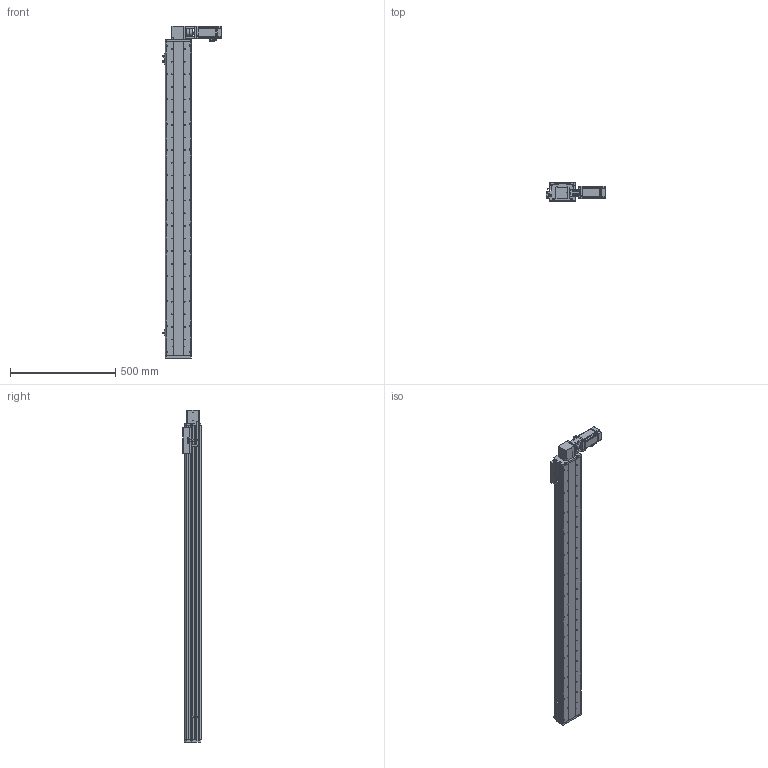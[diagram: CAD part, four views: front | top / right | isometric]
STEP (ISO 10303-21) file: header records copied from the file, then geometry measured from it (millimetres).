
FILE_DESCRIPTION (( 'STEP AP214' ), '1' );
FILE_NAME ('KSD125B-S1300-MRT-CM.STEP', '2017-10-21T07:09:45', ( '微软用户' ), ( '微软中国' ), 'SwSTEP 2.0', 'SolidWorks 2014', '' );
FILE_SCHEMA (( 'AUTOMOTIVE_DESIGN' ));
Length unit declared in the file: millimetre
Products named in the file (16): KSD125模组同步带-防撞垫2; CS-34X32-10X14; 100遵鎮湛假蚾啣1 ; 覜茼え68遵圉猾敕; U倰嫖萇假蚾璃; U倰嫖萇EEㄜSX672; KSD125模组同步带-防撞垫1; 100宽安装板同步带带电机座400W,86; 前端板-125宽模组同步带; 125模组同步带-尾端板1; KSD125模组同步带-滑动座1; KSD125B-S1300-MRT-CM; 100宽马达安装板同步带左; KSD125模组1300行程同步带-防尘盖; 125模组1300行程同步带-底板; MHMD042G1CA_2_03
Assembly tree (19 placements, depth 2):
  KSD125B-S1300-MRT-CM
    KSD125模组同步带-滑动座1
    125模组同步带-尾端板1
    前端板-125宽模组同步带
    100宽安装板同步带带电机座400W,86
    KSD125模组同步带-防撞垫1
    U倰嫖萇EEㄜSX672  x3
    U倰嫖萇假蚾璃  x3
    覜茼え68遵圉猾敕
    100遵鎮湛假蚾啣1 
    CS-34X32-10X14
    KSD125模组同步带-防撞垫2
    MHMD042G1CA_2_03
    125模组1300行程同步带-底板
    KSD125模组1300行程同步带-防尘盖
    100宽马达安装板同步带左
Bounding box: 282.7 x 86 x 1577 mm (x, y, z)
Volume: 4709428.3 mm3; surface area: 1540583.2 mm2
Topology: 18 solids, 21 shells, 1758 faces, 5056 edges, 3336 vertices
Faces by surface type: cylinder 945, plane 710, cone 81, bspline 22
Entity records: 62324 total; most frequent: CARTESIAN_POINT 12564, DIRECTION 9131, ORIENTED_EDGE 8632, EDGE_CURVE 4394, AXIS2_PLACEMENT_3D 3415, VERTEX_POINT 2928, VECTOR 2301, LINE 2301
